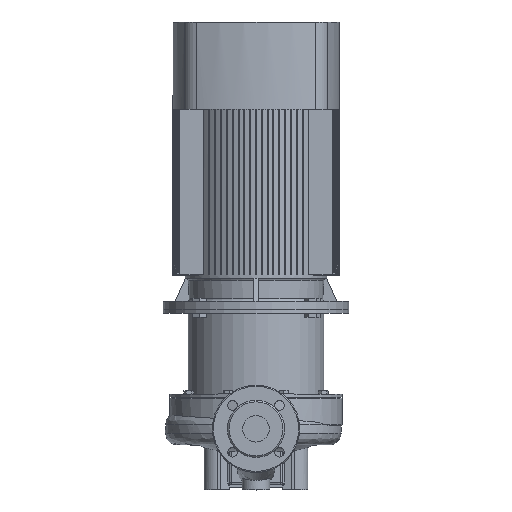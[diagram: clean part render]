
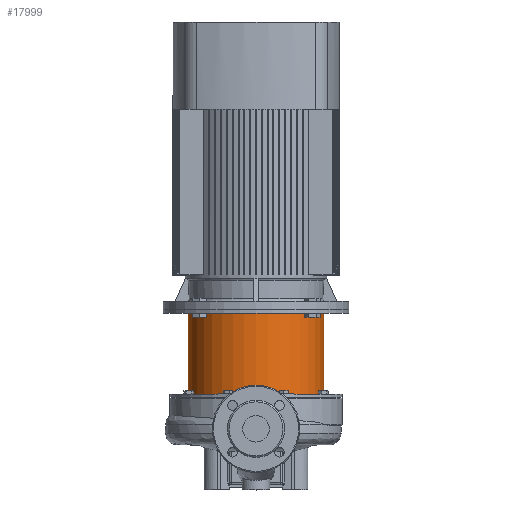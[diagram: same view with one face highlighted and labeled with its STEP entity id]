
A CAD part, top view. The second image highlights one B-rep face of the part: STEP entity #17999.
In plain terms, the highlighted cylindrical face has radius 128 mm (diameter 256 mm), a partial arc.
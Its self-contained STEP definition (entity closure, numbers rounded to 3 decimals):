
#1549 = VERTEX_POINT ( 'NONE', #4792 ) ;
#2869 = EDGE_CURVE ( 'NONE', #7266, #16290, #15677, .T. ) ;
#3305 = AXIS2_PLACEMENT_3D ( 'NONE', #21338, #25606, #6239 ) ;
#3685 = CARTESIAN_POINT ( 'NONE',  ( -128., 0., -6. ) ) ;
#3804 = CYLINDRICAL_SURFACE ( 'NONE', #3305, 128. ) ;
#4083 = ORIENTED_EDGE ( 'NONE', *, *, #10635, .T. ) ;
#4458 = CIRCLE ( 'NONE', #21285, 128. ) ;
#4548 = ORIENTED_EDGE ( 'NONE', *, *, #21191, .T. ) ;
#4792 = CARTESIAN_POINT ( 'NONE',  ( 128., 0., -159. ) ) ;
#4991 = DIRECTION ( 'NONE',  ( 0., 0., 1. ) ) ;
#5104 = DIRECTION ( 'NONE',  ( 1., 0., 0. ) ) ;
#6239 = DIRECTION ( 'NONE',  ( 1., 0., 0. ) ) ;
#7146 = VERTEX_POINT ( 'NONE', #26384 ) ;
#7266 = VERTEX_POINT ( 'NONE', #12406 ) ;
#7284 = DIRECTION ( 'NONE',  ( 1., 0., 0. ) ) ;
#8985 = CARTESIAN_POINT ( 'NONE',  ( 0., 0., -159. ) ) ;
#9127 = AXIS2_PLACEMENT_3D ( 'NONE', #27412, #16739, #5104 ) ;
#9599 = CIRCLE ( 'NONE', #9127, 128. ) ;
#10635 = EDGE_CURVE ( 'NONE', #7266, #1549, #4458, .T. ) ;
#12406 = CARTESIAN_POINT ( 'NONE',  ( -128., 0., -159. ) ) ;
#12714 = ORIENTED_EDGE ( 'NONE', *, *, #15657, .F. ) ;
#15253 = CARTESIAN_POINT ( 'NONE',  ( -128., 0., 14.36 ) ) ;
#15657 = EDGE_CURVE ( 'NONE', #16290, #7146, #9599, .T. ) ;
#15677 = LINE ( 'NONE', #15253, #27187 ) ;
#16290 = VERTEX_POINT ( 'NONE', #3685 ) ;
#16634 = DIRECTION ( 'NONE',  ( 0., 0., 1. ) ) ;
#16739 = DIRECTION ( 'NONE',  ( 0., 0., 1. ) ) ;
#17999 = ADVANCED_FACE ( 'NONE', ( #25891 ), #3804, .T. ) ;
#18786 = EDGE_LOOP ( 'NONE', ( #19315, #4083, #4548, #12714 ) ) ;
#19315 = ORIENTED_EDGE ( 'NONE', *, *, #2869, .F. ) ;
#19947 = DIRECTION ( 'NONE',  ( 0., 0., 1. ) ) ;
#21191 = EDGE_CURVE ( 'NONE', #1549, #7146, #25186, .T. ) ;
#21285 = AXIS2_PLACEMENT_3D ( 'NONE', #8985, #19947, #7284 ) ;
#21338 = CARTESIAN_POINT ( 'NONE',  ( 0., 0., 14.36 ) ) ;
#23862 = CARTESIAN_POINT ( 'NONE',  ( 128., 0., 14.36 ) ) ;
#25186 = LINE ( 'NONE', #23862, #27940 ) ;
#25606 = DIRECTION ( 'NONE',  ( 0., 0., 1. ) ) ;
#25891 = FACE_OUTER_BOUND ( 'NONE', #18786, .T. ) ;
#26384 = CARTESIAN_POINT ( 'NONE',  ( 128., 0., -6. ) ) ;
#27187 = VECTOR ( 'NONE', #4991, 1000. ) ;
#27412 = CARTESIAN_POINT ( 'NONE',  ( 0., 0., -6. ) ) ;
#27940 = VECTOR ( 'NONE', #16634, 1000. ) ;
